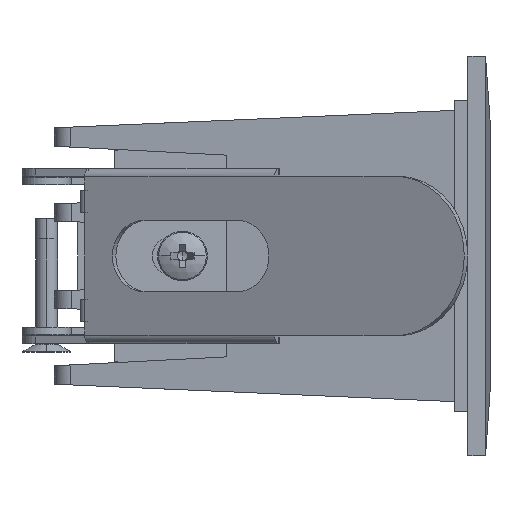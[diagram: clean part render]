
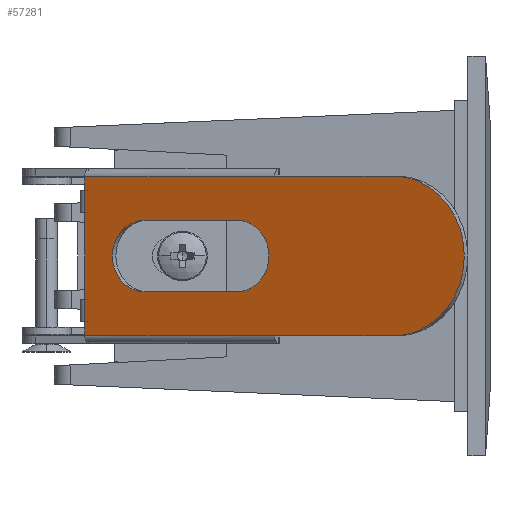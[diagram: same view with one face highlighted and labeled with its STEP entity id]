
A CAD part, left-side view. The second image highlights one B-rep face of the part: STEP entity #57281.
In plain terms, the highlighted planar face has unit normal (-0.89, 0.457, 0) as drawn and (0, 1, 0) by its records, which use the part's own axes.
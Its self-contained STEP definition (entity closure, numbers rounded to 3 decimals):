
#46 = LINE ( 'NONE', #31739, #7890 ) ;
#226 = VECTOR ( 'NONE', #48680, 1000. ) ;
#440 = EDGE_CURVE ( 'NONE', #48565, #19398, #2453, .T. ) ;
#1690 = CARTESIAN_POINT ( 'NONE',  ( -12., 0., 0. ) ) ;
#2074 = DIRECTION ( 'NONE',  ( 0., 0., -1. ) ) ;
#2098 = DIRECTION ( 'NONE',  ( 0., 0., 1. ) ) ;
#2453 = LINE ( 'NONE', #7172, #30739 ) ;
#2806 = CARTESIAN_POINT ( 'NONE',  ( -19.5, 0., -9. ) ) ;
#3305 = LINE ( 'NONE', #43934, #226 ) ;
#4327 = DIRECTION ( 'NONE',  ( 0., 0., -1. ) ) ;
#4363 = ORIENTED_EDGE ( 'NONE', *, *, #53404, .T. ) ;
#5070 = VERTEX_POINT ( 'NONE', #9379 ) ;
#6229 = AXIS2_PLACEMENT_3D ( 'NONE', #46711, #11110, #10227 ) ;
#6651 = LINE ( 'NONE', #2806, #7103 ) ;
#7103 = VECTOR ( 'NONE', #47884, 1000. ) ;
#7172 = CARTESIAN_POINT ( 'NONE',  ( -19.5, 0., 0. ) ) ;
#7745 = ORIENTED_EDGE ( 'NONE', *, *, #39307, .T. ) ;
#7787 = AXIS2_PLACEMENT_3D ( 'NONE', #34810, #52935, #7817 ) ;
#7817 = DIRECTION ( 'NONE',  ( 0., 0., 1. ) ) ;
#7890 = VECTOR ( 'NONE', #54900, 1000. ) ;
#8132 = DIRECTION ( 'NONE',  ( 0., 0., 1. ) ) ;
#9379 = CARTESIAN_POINT ( 'NONE',  ( -19.5, 0., -8.9 ) ) ;
#10096 = ORIENTED_EDGE ( 'NONE', *, *, #57704, .T. ) ;
#10227 = DIRECTION ( 'NONE',  ( 0., 0., -1. ) ) ;
#10363 = LINE ( 'NONE', #51315, #11057 ) ;
#10394 = VECTOR ( 'NONE', #28871, 1000. ) ;
#11057 = VECTOR ( 'NONE', #2074, 1000. ) ;
#11110 = DIRECTION ( 'NONE',  ( 0., 1., 0. ) ) ;
#11374 = ORIENTED_EDGE ( 'NONE', *, *, #52858, .F. ) ;
#11469 = EDGE_CURVE ( 'NONE', #37124, #12339, #19267, .T. ) ;
#11902 = LINE ( 'NONE', #34441, #57133 ) ;
#12325 = VECTOR ( 'NONE', #36745, 1000. ) ;
#12339 = VERTEX_POINT ( 'NONE', #19725 ) ;
#12635 = VERTEX_POINT ( 'NONE', #48352 ) ;
#13193 = PLANE ( 'NONE',  #20356 ) ;
#14701 = CARTESIAN_POINT ( 'NONE',  ( -19.5, 0., 8.9 ) ) ;
#14963 = CARTESIAN_POINT ( 'NONE',  ( -19.5, 0., 4.85 ) ) ;
#15705 = ORIENTED_EDGE ( 'NONE', *, *, #440, .T. ) ;
#15730 = EDGE_CURVE ( 'NONE', #38830, #37973, #10363, .T. ) ;
#16010 = DIRECTION ( 'NONE',  ( -1., 0., 0. ) ) ;
#18410 = EDGE_CURVE ( 'NONE', #30134, #54073, #24281, .T. ) ;
#18926 = LINE ( 'NONE', #46528, #12325 ) ;
#19158 = ORIENTED_EDGE ( 'NONE', *, *, #57532, .T. ) ;
#19267 = LINE ( 'NONE', #50751, #51652 ) ;
#19398 = VERTEX_POINT ( 'NONE', #20733 ) ;
#19501 = EDGE_LOOP ( 'NONE', ( #33378, #45706, #11374, #51509 ) ) ;
#19725 = CARTESIAN_POINT ( 'NONE',  ( -19.5, 0., -4.85 ) ) ;
#19734 = CARTESIAN_POINT ( 'NONE',  ( -12., 0., 4. ) ) ;
#20103 = CIRCLE ( 'NONE', #7787, 4. ) ;
#20235 = ORIENTED_EDGE ( 'NONE', *, *, #11469, .T. ) ;
#20356 = AXIS2_PLACEMENT_3D ( 'NONE', #49411, #26840, #4327 ) ;
#20516 = DIRECTION ( 'NONE',  ( 0., 0., 1. ) ) ;
#20733 = CARTESIAN_POINT ( 'NONE',  ( -19.5, 0., 7.4 ) ) ;
#21778 = CARTESIAN_POINT ( 'NONE',  ( -19.5, 0., -9. ) ) ;
#21833 = FACE_BOUND ( 'NONE', #19501, .T. ) ;
#21934 = CIRCLE ( 'NONE', #56033, 4. ) ;
#22415 = EDGE_CURVE ( 'NONE', #32208, #40506, #46, .T. ) ;
#23675 = CARTESIAN_POINT ( 'NONE',  ( -0.2, 0., -4. ) ) ;
#24281 = CIRCLE ( 'NONE', #6229, 9. ) ;
#26840 = DIRECTION ( 'NONE',  ( 0., -1., 0. ) ) ;
#27699 = CARTESIAN_POINT ( 'NONE',  ( -12., 0., -4. ) ) ;
#28182 = ORIENTED_EDGE ( 'NONE', *, *, #15730, .F. ) ;
#28612 = CARTESIAN_POINT ( 'NONE',  ( -0.2, 0., 4. ) ) ;
#28871 = DIRECTION ( 'NONE',  ( 1., 0., 0. ) ) ;
#29167 = CARTESIAN_POINT ( 'NONE',  ( -19.5, 0., 8.9 ) ) ;
#29650 = EDGE_CURVE ( 'NONE', #31106, #12635, #18926, .T. ) ;
#30020 = CARTESIAN_POINT ( 'NONE',  ( -19.5, 0., 9. ) ) ;
#30134 = VERTEX_POINT ( 'NONE', #55599 ) ;
#30191 = CARTESIAN_POINT ( 'NONE',  ( -19.5, 0., -7.4 ) ) ;
#30739 = VECTOR ( 'NONE', #20516, 1000. ) ;
#31106 = VERTEX_POINT ( 'NONE', #54999 ) ;
#31351 = ORIENTED_EDGE ( 'NONE', *, *, #54868, .T. ) ;
#31739 = CARTESIAN_POINT ( 'NONE',  ( -12., 0., -4. ) ) ;
#32208 = VERTEX_POINT ( 'NONE', #27699 ) ;
#32271 = EDGE_CURVE ( 'NONE', #41901, #48596, #51452, .T. ) ;
#32809 = DIRECTION ( 'NONE',  ( 0., 0., 1. ) ) ;
#33378 = ORIENTED_EDGE ( 'NONE', *, *, #54464, .F. ) ;
#34149 = DIRECTION ( 'NONE',  ( 0., 0., 1. ) ) ;
#34441 = CARTESIAN_POINT ( 'NONE',  ( -19.5, 0., -9. ) ) ;
#34810 = CARTESIAN_POINT ( 'NONE',  ( -0.2, 0., 0. ) ) ;
#36030 = VECTOR ( 'NONE', #8132, 1000. ) ;
#36340 = CARTESIAN_POINT ( 'NONE',  ( 4.5, 0., -8.9 ) ) ;
#36662 = ORIENTED_EDGE ( 'NONE', *, *, #37885, .T. ) ;
#36745 = DIRECTION ( 'NONE',  ( 0., 0., -1. ) ) ;
#37124 = VERTEX_POINT ( 'NONE', #30191 ) ;
#37432 = ORIENTED_EDGE ( 'NONE', *, *, #18410, .T. ) ;
#37508 = VERTEX_POINT ( 'NONE', #14701 ) ;
#37885 = EDGE_CURVE ( 'NONE', #37508, #12635, #51741, .T. ) ;
#37973 = VERTEX_POINT ( 'NONE', #38076 ) ;
#38076 = CARTESIAN_POINT ( 'NONE',  ( 4.5, 0., -9. ) ) ;
#38638 = LINE ( 'NONE', #30020, #38921 ) ;
#38830 = VERTEX_POINT ( 'NONE', #36340 ) ;
#38857 = EDGE_LOOP ( 'NONE', ( #28182, #4363, #7745, #20235, #19158, #15705, #31351, #36662, #58537, #48066, #37432, #10096 ) ) ;
#38921 = VECTOR ( 'NONE', #51997, 1000. ) ;
#39307 = EDGE_CURVE ( 'NONE', #5070, #37124, #48780, .T. ) ;
#39551 = CARTESIAN_POINT ( 'NONE',  ( -12., 0., 4. ) ) ;
#40506 = VERTEX_POINT ( 'NONE', #23675 ) ;
#41901 = VERTEX_POINT ( 'NONE', #19734 ) ;
#43330 = LINE ( 'NONE', #53119, #46908 ) ;
#43934 = CARTESIAN_POINT ( 'NONE',  ( 4.5, 0., -8.9 ) ) ;
#45706 = ORIENTED_EDGE ( 'NONE', *, *, #32271, .F. ) ;
#46528 = CARTESIAN_POINT ( 'NONE',  ( 4.5, 0., 0. ) ) ;
#46711 = CARTESIAN_POINT ( 'NONE',  ( 19.5, 0., 0. ) ) ;
#46908 = VECTOR ( 'NONE', #16010, 1000. ) ;
#47884 = DIRECTION ( 'NONE',  ( 0., 0., 1. ) ) ;
#48066 = ORIENTED_EDGE ( 'NONE', *, *, #50322, .T. ) ;
#48352 = CARTESIAN_POINT ( 'NONE',  ( 4.5, 0., 8.9 ) ) ;
#48565 = VERTEX_POINT ( 'NONE', #14963 ) ;
#48596 = VERTEX_POINT ( 'NONE', #28612 ) ;
#48680 = DIRECTION ( 'NONE',  ( -1., 0., 0. ) ) ;
#48780 = LINE ( 'NONE', #21778, #36030 ) ;
#49411 = CARTESIAN_POINT ( 'NONE',  ( 19.5, 0., 0. ) ) ;
#50322 = EDGE_CURVE ( 'NONE', #31106, #30134, #38638, .T. ) ;
#50751 = CARTESIAN_POINT ( 'NONE',  ( -19.5, 0., 0. ) ) ;
#51315 = CARTESIAN_POINT ( 'NONE',  ( 4.5, 0., 0. ) ) ;
#51452 = LINE ( 'NONE', #39551, #58450 ) ;
#51509 = ORIENTED_EDGE ( 'NONE', *, *, #22415, .T. ) ;
#51652 = VECTOR ( 'NONE', #2098, 1000. ) ;
#51741 = LINE ( 'NONE', #29167, #10394 ) ;
#51997 = DIRECTION ( 'NONE',  ( 1., 0., 0. ) ) ;
#52858 = EDGE_CURVE ( 'NONE', #32208, #41901, #21934, .T. ) ;
#52935 = DIRECTION ( 'NONE',  ( 0., 1., 0. ) ) ;
#53119 = CARTESIAN_POINT ( 'NONE',  ( -19.5, 0., -9. ) ) ;
#53404 = EDGE_CURVE ( 'NONE', #38830, #5070, #3305, .T. ) ;
#53870 = FACE_OUTER_BOUND ( 'NONE', #38857, .T. ) ;
#54073 = VERTEX_POINT ( 'NONE', #54748 ) ;
#54464 = EDGE_CURVE ( 'NONE', #48596, #40506, #20103, .T. ) ;
#54748 = CARTESIAN_POINT ( 'NONE',  ( 19.5, 0., -9. ) ) ;
#54868 = EDGE_CURVE ( 'NONE', #19398, #37508, #11902, .T. ) ;
#54900 = DIRECTION ( 'NONE',  ( 1., 0., 0. ) ) ;
#54999 = CARTESIAN_POINT ( 'NONE',  ( 4.5, 0., 9. ) ) ;
#55599 = CARTESIAN_POINT ( 'NONE',  ( 19.5, 0., 9. ) ) ;
#55964 = DIRECTION ( 'NONE',  ( 0., 1., 0. ) ) ;
#56033 = AXIS2_PLACEMENT_3D ( 'NONE', #1690, #55964, #32809 ) ;
#57133 = VECTOR ( 'NONE', #34149, 1000. ) ;
#57281 = ADVANCED_FACE ( 'NONE', ( #21833, #53870 ), #13193, .F. ) ;
#57532 = EDGE_CURVE ( 'NONE', #12339, #48565, #6651, .T. ) ;
#57668 = DIRECTION ( 'NONE',  ( 1., 0., 0. ) ) ;
#57704 = EDGE_CURVE ( 'NONE', #54073, #37973, #43330, .T. ) ;
#58450 = VECTOR ( 'NONE', #57668, 1000. ) ;
#58537 = ORIENTED_EDGE ( 'NONE', *, *, #29650, .F. ) ;
